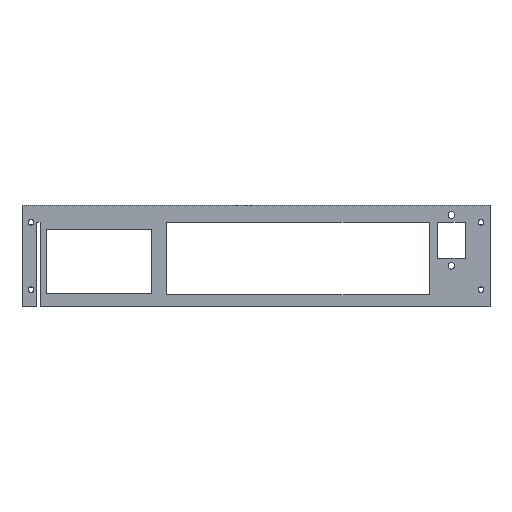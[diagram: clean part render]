
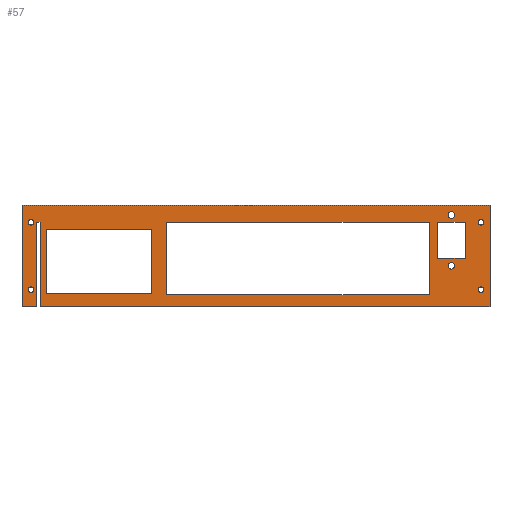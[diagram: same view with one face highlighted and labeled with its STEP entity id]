
A CAD part, top view. The second image highlights one B-rep face of the part: STEP entity #57.
In plain terms, the highlighted planar face has unit normal (0, 0, 1).
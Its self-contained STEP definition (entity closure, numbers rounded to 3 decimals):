
#21 = EDGE_CURVE('',#22,#24,#26,.T.);
#22 = VERTEX_POINT('',#23);
#23 = CARTESIAN_POINT('',(0.,0.,0.));
#24 = VERTEX_POINT('',#25);
#25 = CARTESIAN_POINT('',(-274.,0.,0.));
#26 = LINE('',#27,#28);
#27 = CARTESIAN_POINT('',(0.,0.,0.));
#28 = VECTOR('',#29,1.);
#29 = DIRECTION('',(-1.,0.,0.));
#57 = ADVANCED_FACE('',(#58,#115,#126,#160,#171,#205,#216,#227,#261,#272
    ),#283,.T.);
#58 = FACE_BOUND('',#59,.T.);
#59 = EDGE_LOOP('',(#60,#61,#69,#77,#85,#93,#101,#109));
#60 = ORIENTED_EDGE('',*,*,#21,.F.);
#61 = ORIENTED_EDGE('',*,*,#62,.F.);
#62 = EDGE_CURVE('',#63,#22,#65,.T.);
#63 = VERTEX_POINT('',#64);
#64 = CARTESIAN_POINT('',(0.,62.,0.));
#65 = LINE('',#66,#67);
#66 = CARTESIAN_POINT('',(0.,62.,0.));
#67 = VECTOR('',#68,1.);
#68 = DIRECTION('',(0.,-1.,0.));
#69 = ORIENTED_EDGE('',*,*,#70,.F.);
#70 = EDGE_CURVE('',#71,#63,#73,.T.);
#71 = VERTEX_POINT('',#72);
#72 = CARTESIAN_POINT('',(-285.,62.,0.));
#73 = LINE('',#74,#75);
#74 = CARTESIAN_POINT('',(-285.,62.,0.));
#75 = VECTOR('',#76,1.);
#76 = DIRECTION('',(1.,0.,0.));
#77 = ORIENTED_EDGE('',*,*,#78,.F.);
#78 = EDGE_CURVE('',#79,#71,#81,.T.);
#79 = VERTEX_POINT('',#80);
#80 = CARTESIAN_POINT('',(-285.,0.,0.));
#81 = LINE('',#82,#83);
#82 = CARTESIAN_POINT('',(-285.,0.,0.));
#83 = VECTOR('',#84,1.);
#84 = DIRECTION('',(0.,1.,0.));
#85 = ORIENTED_EDGE('',*,*,#86,.F.);
#86 = EDGE_CURVE('',#87,#79,#89,.T.);
#87 = VERTEX_POINT('',#88);
#88 = CARTESIAN_POINT('',(-276.,0.,0.));
#89 = LINE('',#90,#91);
#90 = CARTESIAN_POINT('',(0.,0.,0.));
#91 = VECTOR('',#92,1.);
#92 = DIRECTION('',(-1.,0.,0.));
#93 = ORIENTED_EDGE('',*,*,#94,.T.);
#94 = EDGE_CURVE('',#87,#95,#97,.T.);
#95 = VERTEX_POINT('',#96);
#96 = CARTESIAN_POINT('',(-276.,51.5,0.));
#97 = LINE('',#98,#99);
#98 = CARTESIAN_POINT('',(-276.,-1.5,0.));
#99 = VECTOR('',#100,1.);
#100 = DIRECTION('',(0.,1.,0.));
#101 = ORIENTED_EDGE('',*,*,#102,.T.);
#102 = EDGE_CURVE('',#95,#103,#105,.T.);
#103 = VERTEX_POINT('',#104);
#104 = CARTESIAN_POINT('',(-274.,51.5,0.));
#105 = LINE('',#106,#107);
#106 = CARTESIAN_POINT('',(-276.,51.5,0.));
#107 = VECTOR('',#108,1.);
#108 = DIRECTION('',(1.,0.,0.));
#109 = ORIENTED_EDGE('',*,*,#110,.T.);
#110 = EDGE_CURVE('',#103,#24,#111,.T.);
#111 = LINE('',#112,#113);
#112 = CARTESIAN_POINT('',(-274.,51.5,0.));
#113 = VECTOR('',#114,1.);
#114 = DIRECTION('',(0.,-1.,0.));
#115 = FACE_BOUND('',#116,.T.);
#116 = EDGE_LOOP('',(#117));
#117 = ORIENTED_EDGE('',*,*,#118,.F.);
#118 = EDGE_CURVE('',#119,#119,#121,.T.);
#119 = VERTEX_POINT('',#120);
#120 = CARTESIAN_POINT('',(-277.85,10.5,0.));
#121 = CIRCLE('',#122,1.65);
#122 = AXIS2_PLACEMENT_3D('',#123,#124,#125);
#123 = CARTESIAN_POINT('',(-279.5,10.5,0.));
#124 = DIRECTION('',(0.,0.,1.));
#125 = DIRECTION('',(1.,0.,0.));
#126 = FACE_BOUND('',#127,.T.);
#127 = EDGE_LOOP('',(#128,#138,#146,#154));
#128 = ORIENTED_EDGE('',*,*,#129,.T.);
#129 = EDGE_CURVE('',#130,#132,#134,.T.);
#130 = VERTEX_POINT('',#131);
#131 = CARTESIAN_POINT('',(-270.,8.,0.));
#132 = VERTEX_POINT('',#133);
#133 = CARTESIAN_POINT('',(-270.,47.,0.));
#134 = LINE('',#135,#136);
#135 = CARTESIAN_POINT('',(-270.,8.,0.));
#136 = VECTOR('',#137,1.);
#137 = DIRECTION('',(0.,1.,0.));
#138 = ORIENTED_EDGE('',*,*,#139,.T.);
#139 = EDGE_CURVE('',#132,#140,#142,.T.);
#140 = VERTEX_POINT('',#141);
#141 = CARTESIAN_POINT('',(-206.,47.,0.));
#142 = LINE('',#143,#144);
#143 = CARTESIAN_POINT('',(-270.,47.,0.));
#144 = VECTOR('',#145,1.);
#145 = DIRECTION('',(1.,0.,0.));
#146 = ORIENTED_EDGE('',*,*,#147,.T.);
#147 = EDGE_CURVE('',#140,#148,#150,.T.);
#148 = VERTEX_POINT('',#149);
#149 = CARTESIAN_POINT('',(-206.,8.,0.));
#150 = LINE('',#151,#152);
#151 = CARTESIAN_POINT('',(-206.,47.,0.));
#152 = VECTOR('',#153,1.);
#153 = DIRECTION('',(0.,-1.,0.));
#154 = ORIENTED_EDGE('',*,*,#155,.T.);
#155 = EDGE_CURVE('',#148,#130,#156,.T.);
#156 = LINE('',#157,#158);
#157 = CARTESIAN_POINT('',(-206.,8.,0.));
#158 = VECTOR('',#159,1.);
#159 = DIRECTION('',(-1.,0.,0.));
#160 = FACE_BOUND('',#161,.T.);
#161 = EDGE_LOOP('',(#162));
#162 = ORIENTED_EDGE('',*,*,#163,.F.);
#163 = EDGE_CURVE('',#164,#164,#166,.T.);
#164 = VERTEX_POINT('',#165);
#165 = CARTESIAN_POINT('',(-3.85,10.5,0.));
#166 = CIRCLE('',#167,1.65);
#167 = AXIS2_PLACEMENT_3D('',#168,#169,#170);
#168 = CARTESIAN_POINT('',(-5.5,10.5,0.));
#169 = DIRECTION('',(0.,0.,1.));
#170 = DIRECTION('',(1.,0.,0.));
#171 = FACE_BOUND('',#172,.T.);
#172 = EDGE_LOOP('',(#173,#183,#191,#199));
#173 = ORIENTED_EDGE('',*,*,#174,.T.);
#174 = EDGE_CURVE('',#175,#177,#179,.T.);
#175 = VERTEX_POINT('',#176);
#176 = CARTESIAN_POINT('',(-197.,7.5,0.));
#177 = VERTEX_POINT('',#178);
#178 = CARTESIAN_POINT('',(-197.,51.5,0.));
#179 = LINE('',#180,#181);
#180 = CARTESIAN_POINT('',(-197.,7.5,0.));
#181 = VECTOR('',#182,1.);
#182 = DIRECTION('',(0.,1.,0.));
#183 = ORIENTED_EDGE('',*,*,#184,.T.);
#184 = EDGE_CURVE('',#177,#185,#187,.T.);
#185 = VERTEX_POINT('',#186);
#186 = CARTESIAN_POINT('',(-37.,51.5,0.));
#187 = LINE('',#188,#189);
#188 = CARTESIAN_POINT('',(-197.,51.5,0.));
#189 = VECTOR('',#190,1.);
#190 = DIRECTION('',(1.,0.,0.));
#191 = ORIENTED_EDGE('',*,*,#192,.T.);
#192 = EDGE_CURVE('',#185,#193,#195,.T.);
#193 = VERTEX_POINT('',#194);
#194 = CARTESIAN_POINT('',(-37.,7.5,0.));
#195 = LINE('',#196,#197);
#196 = CARTESIAN_POINT('',(-37.,51.5,0.));
#197 = VECTOR('',#198,1.);
#198 = DIRECTION('',(0.,-1.,0.));
#199 = ORIENTED_EDGE('',*,*,#200,.T.);
#200 = EDGE_CURVE('',#193,#175,#201,.T.);
#201 = LINE('',#202,#203);
#202 = CARTESIAN_POINT('',(-37.,7.5,0.));
#203 = VECTOR('',#204,1.);
#204 = DIRECTION('',(-1.,0.,0.));
#205 = FACE_BOUND('',#206,.T.);
#206 = EDGE_LOOP('',(#207));
#207 = ORIENTED_EDGE('',*,*,#208,.F.);
#208 = EDGE_CURVE('',#209,#209,#211,.T.);
#209 = VERTEX_POINT('',#210);
#210 = CARTESIAN_POINT('',(-21.5,25.,0.));
#211 = CIRCLE('',#212,2.);
#212 = AXIS2_PLACEMENT_3D('',#213,#214,#215);
#213 = CARTESIAN_POINT('',(-23.5,25.,0.));
#214 = DIRECTION('',(0.,0.,1.));
#215 = DIRECTION('',(1.,0.,0.));
#216 = FACE_BOUND('',#217,.T.);
#217 = EDGE_LOOP('',(#218));
#218 = ORIENTED_EDGE('',*,*,#219,.F.);
#219 = EDGE_CURVE('',#220,#220,#222,.T.);
#220 = VERTEX_POINT('',#221);
#221 = CARTESIAN_POINT('',(-277.85,51.5,0.));
#222 = CIRCLE('',#223,1.65);
#223 = AXIS2_PLACEMENT_3D('',#224,#225,#226);
#224 = CARTESIAN_POINT('',(-279.5,51.5,0.));
#225 = DIRECTION('',(0.,0.,1.));
#226 = DIRECTION('',(1.,0.,0.));
#227 = FACE_BOUND('',#228,.T.);
#228 = EDGE_LOOP('',(#229,#239,#247,#255));
#229 = ORIENTED_EDGE('',*,*,#230,.T.);
#230 = EDGE_CURVE('',#231,#233,#235,.T.);
#231 = VERTEX_POINT('',#232);
#232 = CARTESIAN_POINT('',(-32.,29.5,0.));
#233 = VERTEX_POINT('',#234);
#234 = CARTESIAN_POINT('',(-32.,51.5,0.));
#235 = LINE('',#236,#237);
#236 = CARTESIAN_POINT('',(-32.,29.5,0.));
#237 = VECTOR('',#238,1.);
#238 = DIRECTION('',(0.,1.,0.));
#239 = ORIENTED_EDGE('',*,*,#240,.T.);
#240 = EDGE_CURVE('',#233,#241,#243,.T.);
#241 = VERTEX_POINT('',#242);
#242 = CARTESIAN_POINT('',(-15.,51.5,0.));
#243 = LINE('',#244,#245);
#244 = CARTESIAN_POINT('',(-32.,51.5,0.));
#245 = VECTOR('',#246,1.);
#246 = DIRECTION('',(1.,0.,0.));
#247 = ORIENTED_EDGE('',*,*,#248,.T.);
#248 = EDGE_CURVE('',#241,#249,#251,.T.);
#249 = VERTEX_POINT('',#250);
#250 = CARTESIAN_POINT('',(-15.,29.5,0.));
#251 = LINE('',#252,#253);
#252 = CARTESIAN_POINT('',(-15.,51.5,0.));
#253 = VECTOR('',#254,1.);
#254 = DIRECTION('',(0.,-1.,0.));
#255 = ORIENTED_EDGE('',*,*,#256,.T.);
#256 = EDGE_CURVE('',#249,#231,#257,.T.);
#257 = LINE('',#258,#259);
#258 = CARTESIAN_POINT('',(-15.,29.5,0.));
#259 = VECTOR('',#260,1.);
#260 = DIRECTION('',(-1.,0.,0.));
#261 = FACE_BOUND('',#262,.T.);
#262 = EDGE_LOOP('',(#263));
#263 = ORIENTED_EDGE('',*,*,#264,.F.);
#264 = EDGE_CURVE('',#265,#265,#267,.T.);
#265 = VERTEX_POINT('',#266);
#266 = CARTESIAN_POINT('',(-3.85,51.5,0.));
#267 = CIRCLE('',#268,1.65);
#268 = AXIS2_PLACEMENT_3D('',#269,#270,#271);
#269 = CARTESIAN_POINT('',(-5.5,51.5,0.));
#270 = DIRECTION('',(0.,0.,1.));
#271 = DIRECTION('',(1.,0.,0.));
#272 = FACE_BOUND('',#273,.T.);
#273 = EDGE_LOOP('',(#274));
#274 = ORIENTED_EDGE('',*,*,#275,.F.);
#275 = EDGE_CURVE('',#276,#276,#278,.T.);
#276 = VERTEX_POINT('',#277);
#277 = CARTESIAN_POINT('',(-21.5,56.,0.));
#278 = CIRCLE('',#279,2.);
#279 = AXIS2_PLACEMENT_3D('',#280,#281,#282);
#280 = CARTESIAN_POINT('',(-23.5,56.,0.));
#281 = DIRECTION('',(0.,0.,1.));
#282 = DIRECTION('',(1.,0.,0.));
#283 = PLANE('',#284);
#284 = AXIS2_PLACEMENT_3D('',#285,#286,#287);
#285 = CARTESIAN_POINT('',(-142.5,31.,0.));
#286 = DIRECTION('',(0.,0.,1.));
#287 = DIRECTION('',(1.,0.,0.));
